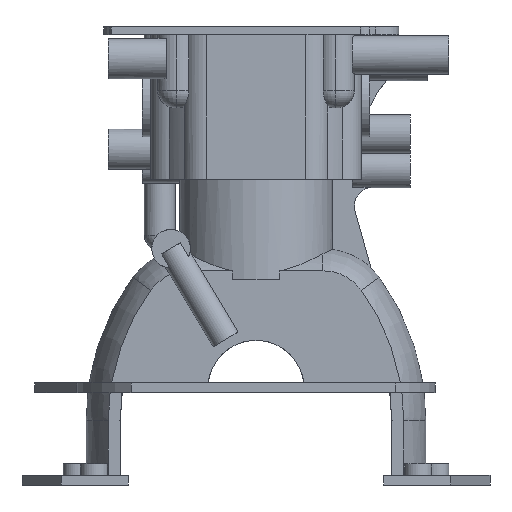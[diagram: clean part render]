
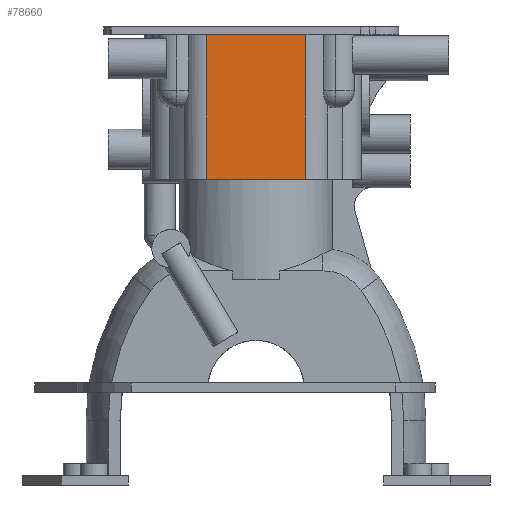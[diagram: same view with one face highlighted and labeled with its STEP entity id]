
A CAD part, left-side view. The second image highlights one B-rep face of the part: STEP entity #78660.
In plain terms, the highlighted planar face has unit normal (-1, 0, 0).
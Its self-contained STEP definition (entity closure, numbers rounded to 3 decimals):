
#40727 = PLANE('',#40728);
#40728 = AXIS2_PLACEMENT_3D('',#40729,#40730,#40731);
#40729 = CARTESIAN_POINT('',(112.5,0.,108.5));
#40730 = DIRECTION('',(0.,0.,1.));
#40731 = DIRECTION('',(1.,0.,0.));
#45690 = PLANE('',#45691);
#45691 = AXIS2_PLACEMENT_3D('',#45692,#45693,#45694);
#45692 = CARTESIAN_POINT('',(112.5,0.,183.5));
#45693 = DIRECTION('',(0.,0.,1.));
#45694 = DIRECTION('',(1.,0.,0.));
#56400 = VERTEX_POINT('',#56401);
#56401 = CARTESIAN_POINT('',(-49.5,25.5,108.5));
#56420 = CYLINDRICAL_SURFACE('',#56421,12.5);
#56421 = AXIS2_PLACEMENT_3D('',#56422,#56423,#56424);
#56422 = CARTESIAN_POINT('',(-37.,25.5,108.5));
#56423 = DIRECTION('',(0.,0.,1.));
#56424 = DIRECTION('',(1.,0.,0.));
#56432 = EDGE_CURVE('',#56433,#56400,#56435,.T.);
#56433 = VERTEX_POINT('',#56434);
#56434 = CARTESIAN_POINT('',(-49.5,-25.5,108.5));
#56435 = SURFACE_CURVE('',#56436,(#56440,#56447),.PCURVE_S2.);
#56436 = LINE('',#56437,#56438);
#56437 = CARTESIAN_POINT('',(-49.5,0.,108.5));
#56438 = VECTOR('',#56439,1.);
#56439 = DIRECTION('',(0.,1.,0.));
#56440 = PCURVE('',#40727,#56441);
#56441 = DEFINITIONAL_REPRESENTATION('',(#56442),#56446);
#56442 = LINE('',#56443,#56444);
#56443 = CARTESIAN_POINT('',(-162.,0.));
#56444 = VECTOR('',#56445,1.);
#56445 = DIRECTION('',(0.,1.));
#56446 = ( GEOMETRIC_REPRESENTATION_CONTEXT(2) 
PARAMETRIC_REPRESENTATION_CONTEXT() REPRESENTATION_CONTEXT('2D SPACE',''
  ) );
#56447 = PCURVE('',#56448,#56453);
#56448 = PLANE('',#56449);
#56449 = AXIS2_PLACEMENT_3D('',#56450,#56451,#56452);
#56450 = CARTESIAN_POINT('',(-49.5,-25.5,108.5));
#56451 = DIRECTION('',(-1.,0.,0.));
#56452 = DIRECTION('',(0.,1.,0.));
#56453 = DEFINITIONAL_REPRESENTATION('',(#56454),#56458);
#56454 = LINE('',#56455,#56456);
#56455 = CARTESIAN_POINT('',(25.5,0.));
#56456 = VECTOR('',#56457,1.);
#56457 = DIRECTION('',(1.,0.));
#56458 = ( GEOMETRIC_REPRESENTATION_CONTEXT(2) 
PARAMETRIC_REPRESENTATION_CONTEXT() REPRESENTATION_CONTEXT('2D SPACE',''
  ) );
#56481 = CYLINDRICAL_SURFACE('',#56482,12.5);
#56482 = AXIS2_PLACEMENT_3D('',#56483,#56484,#56485);
#56483 = CARTESIAN_POINT('',(-37.,-25.5,108.5));
#56484 = DIRECTION('',(0.,0.,1.));
#56485 = DIRECTION('',(1.,0.,0.));
#67099 = VERTEX_POINT('',#67100);
#67100 = CARTESIAN_POINT('',(-49.5,-25.5,183.5));
#67126 = EDGE_CURVE('',#67127,#67099,#67129,.T.);
#67127 = VERTEX_POINT('',#67128);
#67128 = CARTESIAN_POINT('',(-49.5,25.5,183.5));
#67129 = SURFACE_CURVE('',#67130,(#67134,#67141),.PCURVE_S2.);
#67130 = LINE('',#67131,#67132);
#67131 = CARTESIAN_POINT('',(-49.5,-12.75,183.5));
#67132 = VECTOR('',#67133,1.);
#67133 = DIRECTION('',(0.,-1.,0.));
#67134 = PCURVE('',#45690,#67135);
#67135 = DEFINITIONAL_REPRESENTATION('',(#67136),#67140);
#67136 = LINE('',#67137,#67138);
#67137 = CARTESIAN_POINT('',(-162.,-12.75));
#67138 = VECTOR('',#67139,1.);
#67139 = DIRECTION('',(0.,-1.));
#67140 = ( GEOMETRIC_REPRESENTATION_CONTEXT(2) 
PARAMETRIC_REPRESENTATION_CONTEXT() REPRESENTATION_CONTEXT('2D SPACE',''
  ) );
#67141 = PCURVE('',#56448,#67142);
#67142 = DEFINITIONAL_REPRESENTATION('',(#67143),#67147);
#67143 = LINE('',#67144,#67145);
#67144 = CARTESIAN_POINT('',(12.75,-75.));
#67145 = VECTOR('',#67146,1.);
#67146 = DIRECTION('',(-1.,0.));
#67147 = ( GEOMETRIC_REPRESENTATION_CONTEXT(2) 
PARAMETRIC_REPRESENTATION_CONTEXT() REPRESENTATION_CONTEXT('2D SPACE',''
  ) );
#78639 = EDGE_CURVE('',#56400,#67127,#78640,.T.);
#78640 = SURFACE_CURVE('',#78641,(#78645,#78652),.PCURVE_S2.);
#78641 = LINE('',#78642,#78643);
#78642 = CARTESIAN_POINT('',(-49.5,25.5,108.5));
#78643 = VECTOR('',#78644,1.);
#78644 = DIRECTION('',(0.,0.,1.));
#78645 = PCURVE('',#56420,#78646);
#78646 = DEFINITIONAL_REPRESENTATION('',(#78647),#78651);
#78647 = LINE('',#78648,#78649);
#78648 = CARTESIAN_POINT('',(3.142,-0.));
#78649 = VECTOR('',#78650,1.);
#78650 = DIRECTION('',(-0.,1.));
#78651 = ( GEOMETRIC_REPRESENTATION_CONTEXT(2) 
PARAMETRIC_REPRESENTATION_CONTEXT() REPRESENTATION_CONTEXT('2D SPACE',''
  ) );
#78652 = PCURVE('',#56448,#78653);
#78653 = DEFINITIONAL_REPRESENTATION('',(#78654),#78658);
#78654 = LINE('',#78655,#78656);
#78655 = CARTESIAN_POINT('',(51.,0.));
#78656 = VECTOR('',#78657,1.);
#78657 = DIRECTION('',(0.,-1.));
#78658 = ( GEOMETRIC_REPRESENTATION_CONTEXT(2) 
PARAMETRIC_REPRESENTATION_CONTEXT() REPRESENTATION_CONTEXT('2D SPACE',''
  ) );
#78660 = ADVANCED_FACE('',(#78661),#56448,.T.);
#78661 = FACE_BOUND('',#78662,.T.);
#78662 = EDGE_LOOP('',(#78663,#78684,#78685,#78686));
#78663 = ORIENTED_EDGE('',*,*,#78664,.T.);
#78664 = EDGE_CURVE('',#56433,#67099,#78665,.T.);
#78665 = SURFACE_CURVE('',#78666,(#78670,#78677),.PCURVE_S2.);
#78666 = LINE('',#78667,#78668);
#78667 = CARTESIAN_POINT('',(-49.5,-25.5,108.5));
#78668 = VECTOR('',#78669,1.);
#78669 = DIRECTION('',(0.,0.,1.));
#78670 = PCURVE('',#56448,#78671);
#78671 = DEFINITIONAL_REPRESENTATION('',(#78672),#78676);
#78672 = LINE('',#78673,#78674);
#78673 = CARTESIAN_POINT('',(0.,0.));
#78674 = VECTOR('',#78675,1.);
#78675 = DIRECTION('',(0.,-1.));
#78676 = ( GEOMETRIC_REPRESENTATION_CONTEXT(2) 
PARAMETRIC_REPRESENTATION_CONTEXT() REPRESENTATION_CONTEXT('2D SPACE',''
  ) );
#78677 = PCURVE('',#56481,#78678);
#78678 = DEFINITIONAL_REPRESENTATION('',(#78679),#78683);
#78679 = LINE('',#78680,#78681);
#78680 = CARTESIAN_POINT('',(3.142,-0.));
#78681 = VECTOR('',#78682,1.);
#78682 = DIRECTION('',(-0.,1.));
#78683 = ( GEOMETRIC_REPRESENTATION_CONTEXT(2) 
PARAMETRIC_REPRESENTATION_CONTEXT() REPRESENTATION_CONTEXT('2D SPACE',''
  ) );
#78684 = ORIENTED_EDGE('',*,*,#67126,.F.);
#78685 = ORIENTED_EDGE('',*,*,#78639,.F.);
#78686 = ORIENTED_EDGE('',*,*,#56432,.F.);
